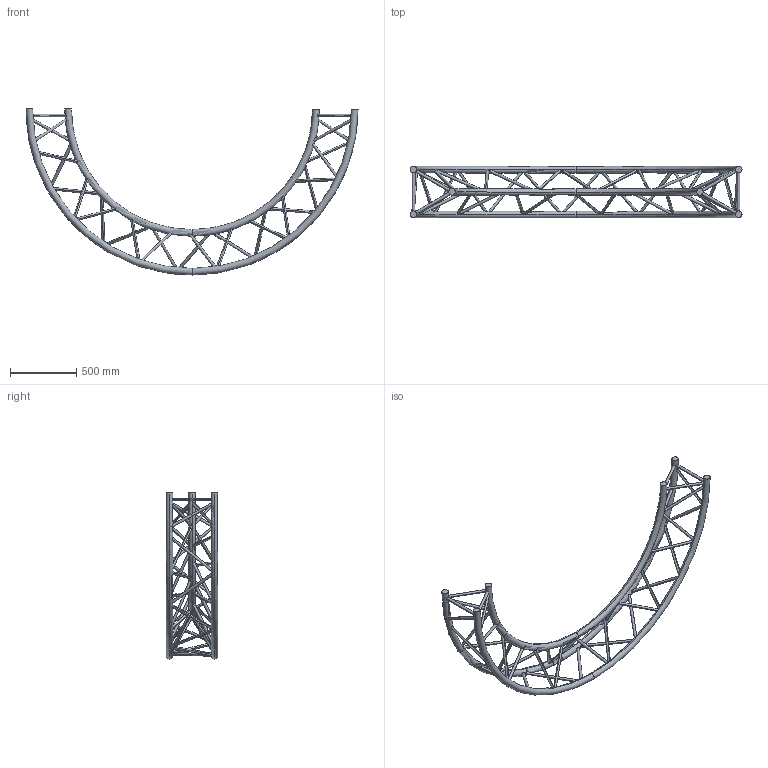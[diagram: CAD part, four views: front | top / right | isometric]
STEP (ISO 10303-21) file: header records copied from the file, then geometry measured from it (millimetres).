
FILE_DESCRIPTION (( 'STEP AP203' ), '1' );
FILE_NAME ('SXC39250PI.STEP', '2009-10-21T11:47:43', ( 'CEDIA' ), ( 'CEDIA INDUSTRIE' ), 'SwSTEP 2.0', 'SolidWorks 2009', '' );
FILE_SCHEMA (( 'CONFIG_CONTROL_DESIGN' ));
Length unit declared in the file: millimetre
Products named in the file (1): SXC39250PI
Bounding box: 2500 x 387 x 1250 mm (x, y, z)
Volume: 25754781 mm3; surface area: 2627454.1 mm2
Topology: 1 solids, 1 shells, 108 faces, 306 edges, 202 vertices
Faces by surface type: cylinder 90, torus 12, plane 6
Entity records: 12167 total; most frequent: CARTESIAN_POINT 9452, ORIENTED_EDGE 612, DIRECTION 370, EDGE_CURVE 306, VERTEX_POINT 202, EDGE_LOOP 196, B_SPLINE_CURVE_WITH_KNOTS 185, AXIS2_PLACEMENT_3D 140
